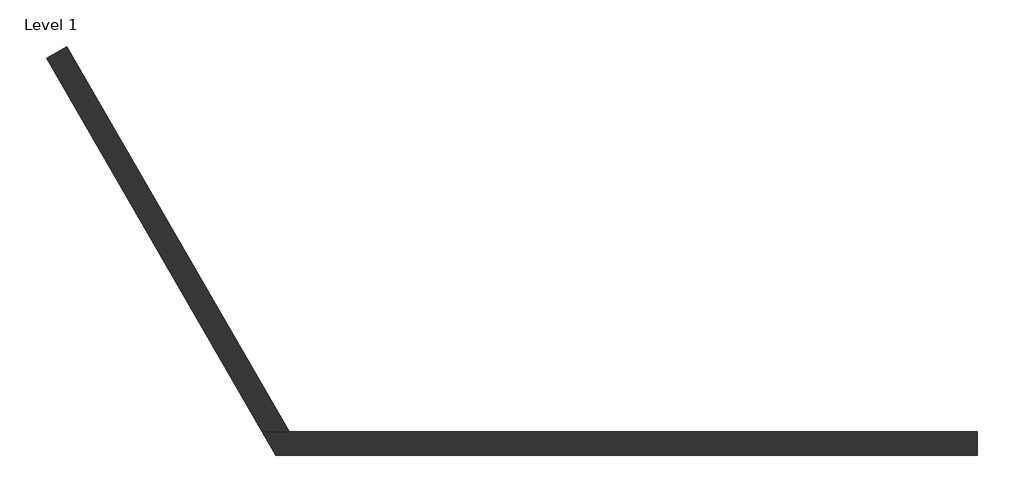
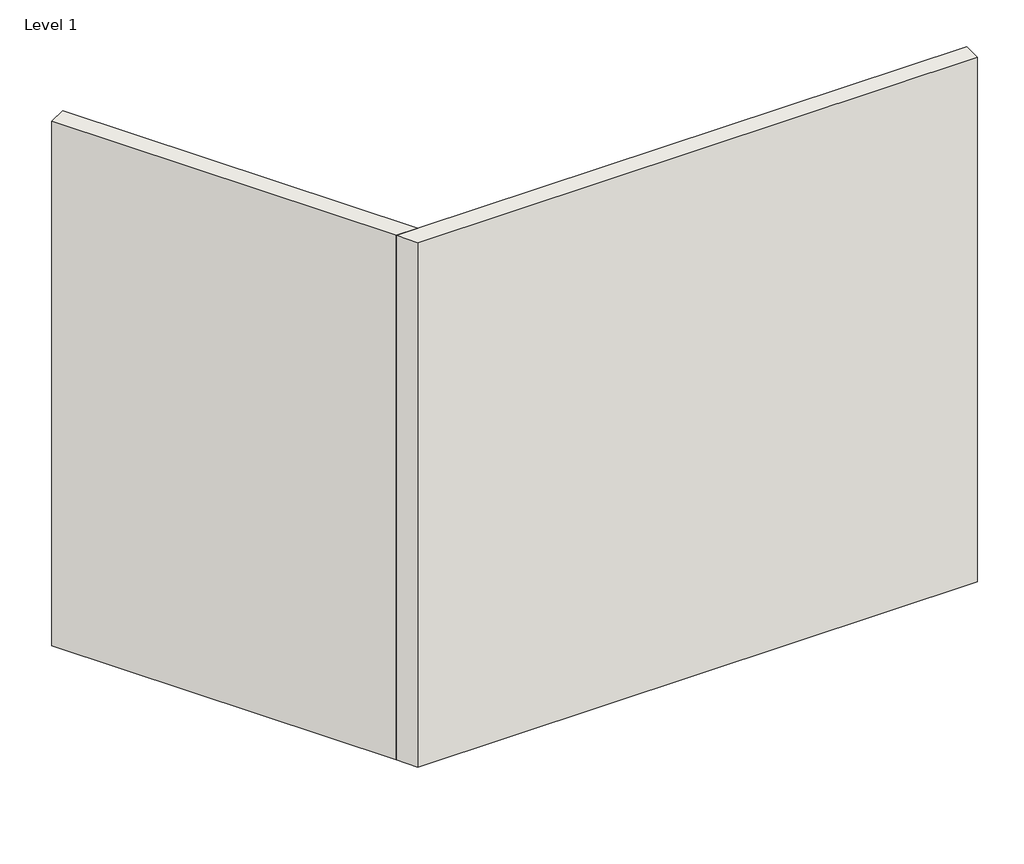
# One storey: 2 walls.
"""IFC4 building model written with IfcOpenShell, lengths in millimetres."""

from ifc_helpers import new_model, si_unit, origin, origin_with_axes, place, context, project, spatial, polyline, outline, extrude, faceted_brep, element, save

model = new_model("IFC4")

# Units and contexts
model_context = context("Model", 3, world=origin())
ifc_project = project(units=[si_unit("LENGTHUNIT", "METRE", prefix="MILLI")], contexts=[model_context])

# Site, building, storey
site = spatial("IfcSite", under=ifc_project)
building = spatial("IfcBuilding", under=site)
storey = spatial("IfcBuildingStorey", under=building, Name="Level 1", Elevation=0.0)

# Walls
placement = place(None, origin())
element("IfcWall", 1, ObjectType="Generic - 8\"", at=placement, inside=storey, context=model_context, shape_type="Brep", body=[
    faceted_brep([(4824.9524682, 2223.5984617, 0.0), (-1212.3887444, 2223.5984617, 0.0), (-1447.0238938, 2223.5984617, 0.0), (-1447.0238938, 2223.5984617, 6096.0), (-1212.3887444, 2223.5984617, 6096.0), (4824.9524682, 2223.5984617, 6096.0), (4824.9524682, 2020.3984617, 0.0), (4824.9524682, 2020.3984617, 6096.0), (-1329.7063191, 2020.3984617, 6096.0), (-1329.7063191, 2020.3984617, 0.0)], [[[0, 1, 2, 3, 4, 5]], [[6, 7, 8, 9]], [[2, 1, 0, 6, 9]], [[5, 4, 3, 8, 7]], [[0, 5, 7, 6]], [[3, 2, 9, 8]]]),
])
element("IfcWall", 2, ObjectType="Generic - 8\"", at=placement, inside=storey, context=model_context, shape_type="SweptSolid", body=[
    extrude(outline(polyline([(-3164.2593508, 5604.3375217), (-1212.3887444, 2223.5984617), (-1447.0238938, 2223.5984617), (-3340.2357128, 5502.7375217), (-3164.2593508, 5604.3375217)])), origin_with_axes(), (0.0, 0.0, 1.0), 6096.0),
])

save(model, "model.ifc")
